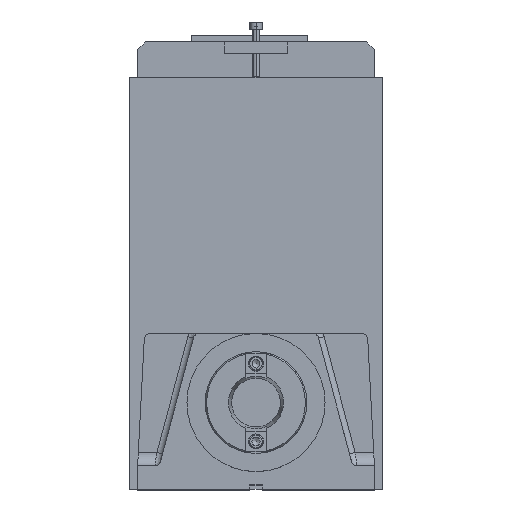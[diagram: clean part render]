
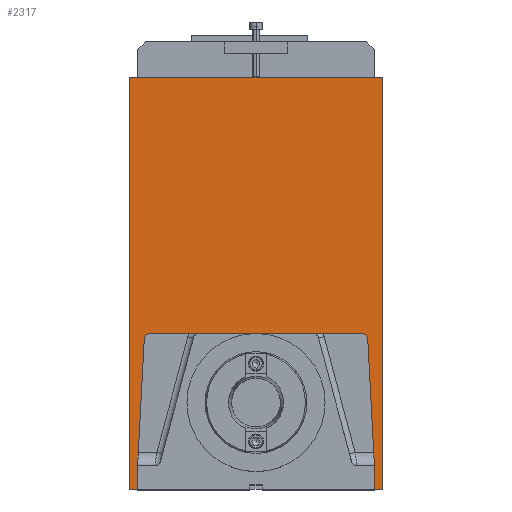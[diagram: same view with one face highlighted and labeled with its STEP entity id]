
A CAD part, top view. The second image highlights one B-rep face of the part: STEP entity #2317.
In plain terms, the highlighted planar face has unit normal (0, 0, 1).
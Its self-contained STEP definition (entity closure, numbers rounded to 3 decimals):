
#2212=CARTESIAN_POINT('',(0.,152.,0.0));
#2213=DIRECTION('',(0.0,0.0,1.0));
#2214=DIRECTION('',(1.0,0.0,0.0));
#2215=AXIS2_PLACEMENT_3D('',#2212,#2213,#2214);
#2216=PLANE('',#2215);
#2217=CARTESIAN_POINT('',(-150.0,-80.0,0.0));
#2218=VERTEX_POINT('',#2217);
#2219=CARTESIAN_POINT('',(-150.0,-109.,0.0));
#2220=VERTEX_POINT('',#2219);
#2221=CARTESIAN_POINT('',(-150.0,-80.0,0.0));
#2222=DIRECTION('',(0.0,-1.0,0.0));
#2223=VECTOR('',#2222,29.);
#2224=LINE('',#2221,#2223);
#2225=EDGE_CURVE('',#2218,#2220,#2224,.T.);
#2226=ORIENTED_EDGE('',*,*,#2225,.F.);
#2227=CARTESIAN_POINT('',(-141.568,80.893,0.0));
#2228=VERTEX_POINT('',#2227);
#2229=CARTESIAN_POINT('',(-150.0,-80.0,0.0));
#2230=DIRECTION('',(0.052,0.999,0.0));
#2231=VECTOR('',#2230,161.113);
#2232=LINE('',#2229,#2231);
#2233=EDGE_CURVE('',#2218,#2228,#2232,.T.);
#2234=ORIENTED_EDGE('',*,*,#2233,.T.);
#2235=CARTESIAN_POINT('',(-134.078,88.,0.0));
#2236=VERTEX_POINT('',#2235);
#2237=CARTESIAN_POINT('',(-134.078,80.5,0.0));
#2238=DIRECTION('',(0.0,0.0,1.));
#2239=DIRECTION('',(-0.688,0.725,0.0));
#2240=AXIS2_PLACEMENT_3D('',#2237,#2238,#2239);
#2241=CIRCLE('',#2240,7.5);
#2242=EDGE_CURVE('',#2236,#2228,#2241,.T.);
#2243=ORIENTED_EDGE('',*,*,#2242,.F.);
#2244=CARTESIAN_POINT('',(134.078,88.0,0.0));
#2245=VERTEX_POINT('',#2244);
#2246=CARTESIAN_POINT('',(-134.078,88.,0.0));
#2247=DIRECTION('',(1.0,0.0,0.0));
#2248=VECTOR('',#2247,268.157);
#2249=LINE('',#2246,#2248);
#2250=EDGE_CURVE('',#2236,#2245,#2249,.T.);
#2251=ORIENTED_EDGE('',*,*,#2250,.T.);
#2252=CARTESIAN_POINT('',(141.568,80.893,0.0));
#2253=VERTEX_POINT('',#2252);
#2254=CARTESIAN_POINT('',(134.078,80.5,0.0));
#2255=DIRECTION('',(0.0,0.0,1.));
#2256=DIRECTION('',(0.688,0.725,0.0));
#2257=AXIS2_PLACEMENT_3D('',#2254,#2255,#2256);
#2258=CIRCLE('',#2257,7.5);
#2259=EDGE_CURVE('',#2253,#2245,#2258,.T.);
#2260=ORIENTED_EDGE('',*,*,#2259,.F.);
#2261=CARTESIAN_POINT('',(150.0,-80.0,0.0));
#2262=VERTEX_POINT('',#2261);
#2263=CARTESIAN_POINT('',(141.568,80.893,0.0));
#2264=DIRECTION('',(0.052,-0.999,0.0));
#2265=VECTOR('',#2264,161.113);
#2266=LINE('',#2263,#2265);
#2267=EDGE_CURVE('',#2253,#2262,#2266,.T.);
#2268=ORIENTED_EDGE('',*,*,#2267,.T.);
#2269=CARTESIAN_POINT('',(150.0,-109.,0.0));
#2270=VERTEX_POINT('',#2269);
#2271=CARTESIAN_POINT('',(150.0,-109.,0.0));
#2272=DIRECTION('',(0.0,1.0,0.0));
#2273=VECTOR('',#2272,29.);
#2274=LINE('',#2271,#2273);
#2275=EDGE_CURVE('',#2270,#2262,#2274,.T.);
#2276=ORIENTED_EDGE('',*,*,#2275,.F.);
#2277=CARTESIAN_POINT('',(160.0,-109.,0.0));
#2278=VERTEX_POINT('',#2277);
#2279=CARTESIAN_POINT('',(160.0,-109.,0.0));
#2280=DIRECTION('',(-1.0,0.0,0.0));
#2281=VECTOR('',#2280,10.0);
#2282=LINE('',#2279,#2281);
#2283=EDGE_CURVE('',#2278,#2270,#2282,.T.);
#2284=ORIENTED_EDGE('',*,*,#2283,.F.);
#2285=CARTESIAN_POINT('',(160.,413.0,0.0));
#2286=VERTEX_POINT('',#2285);
#2287=CARTESIAN_POINT('',(160.,413.0,0.0));
#2288=DIRECTION('',(0.0,-1.0,0.0));
#2289=VECTOR('',#2288,522.0);
#2290=LINE('',#2287,#2289);
#2291=EDGE_CURVE('',#2286,#2278,#2290,.T.);
#2292=ORIENTED_EDGE('',*,*,#2291,.F.);
#2293=CARTESIAN_POINT('',(-160.,413.0,0.0));
#2294=VERTEX_POINT('',#2293);
#2295=CARTESIAN_POINT('',(-160.,413.0,0.0));
#2296=DIRECTION('',(1.0,0.0,0.0));
#2297=VECTOR('',#2296,320.);
#2298=LINE('',#2295,#2297);
#2299=EDGE_CURVE('',#2294,#2286,#2298,.T.);
#2300=ORIENTED_EDGE('',*,*,#2299,.F.);
#2301=CARTESIAN_POINT('',(-160.0,-109.,0.0));
#2302=VERTEX_POINT('',#2301);
#2303=CARTESIAN_POINT('',(-160.0,-109.,0.0));
#2304=DIRECTION('',(0.0,1.0,0.0));
#2305=VECTOR('',#2304,522.0);
#2306=LINE('',#2303,#2305);
#2307=EDGE_CURVE('',#2302,#2294,#2306,.T.);
#2308=ORIENTED_EDGE('',*,*,#2307,.F.);
#2309=CARTESIAN_POINT('',(-150.0,-109.,0.0));
#2310=DIRECTION('',(-1.0,0.0,0.0));
#2311=VECTOR('',#2310,10.0);
#2312=LINE('',#2309,#2311);
#2313=EDGE_CURVE('',#2220,#2302,#2312,.T.);
#2314=ORIENTED_EDGE('',*,*,#2313,.F.);
#2315=EDGE_LOOP('',(#2226,#2234,#2243,#2251,#2260,#2268,#2276,#2284,#2292,#2300,#2308,#2314));
#2316=FACE_OUTER_BOUND('',#2315,.T.);
#2317=ADVANCED_FACE('',(#2316),#2216,.T.);
